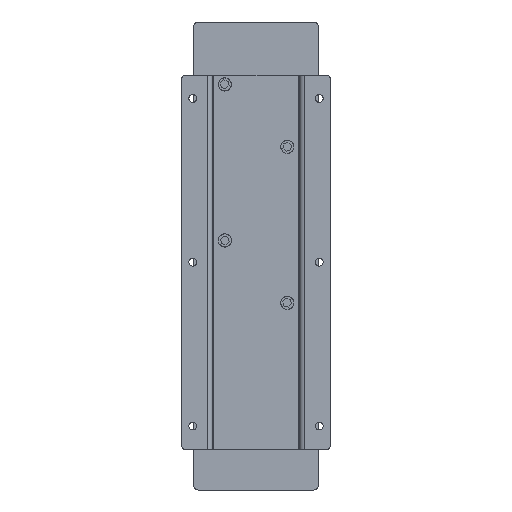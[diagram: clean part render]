
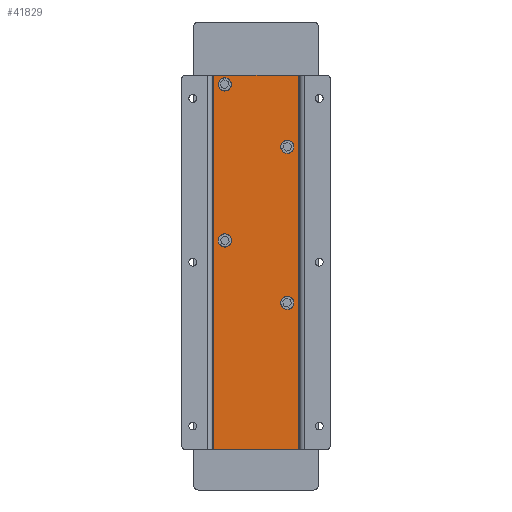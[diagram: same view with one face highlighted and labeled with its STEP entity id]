
A CAD part, left-side view. The second image highlights one B-rep face of the part: STEP entity #41829.
In plain terms, the highlighted planar face has unit normal (-1, 0, 0) as drawn and (0, 0, -1) by its records, which use the part's own axes.
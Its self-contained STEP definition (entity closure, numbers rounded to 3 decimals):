
#302 = CARTESIAN_POINT ( 'NONE',  ( -120., -27., -2. ) ) ;
#468 = FACE_BOUND ( 'NONE', #24551, .T. ) ;
#680 = FACE_BOUND ( 'NONE', #18764, .T. ) ;
#1101 = PLANE ( 'NONE',  #23171 ) ;
#1587 = ORIENTED_EDGE ( 'NONE', *, *, #27750, .F. ) ;
#1651 = CARTESIAN_POINT ( 'NONE',  ( -74., -20., -2. ) ) ;
#1652 = CARTESIAN_POINT ( 'NONE',  ( 120., 27., -2. ) ) ;
#1813 = DIRECTION ( 'NONE',  ( 1., 0., 0. ) ) ;
#2118 = CIRCLE ( 'NONE', #9692, 3.25 ) ;
#2319 = DIRECTION ( 'NONE',  ( 1., 0., 0. ) ) ;
#2619 = AXIS2_PLACEMENT_3D ( 'NONE', #25230, #24817, #34700 ) ;
#3047 = EDGE_CURVE ( 'NONE', #36448, #13564, #2118, .T. ) ;
#3077 = CARTESIAN_POINT ( 'NONE',  ( -114., 20., -2. ) ) ;
#3519 = CARTESIAN_POINT ( 'NONE',  ( -120., -27., -2. ) ) ;
#3689 = CARTESIAN_POINT ( 'NONE',  ( 120., -27., -2. ) ) ;
#3916 = CARTESIAN_POINT ( 'NONE',  ( 26., -20., -2. ) ) ;
#3964 = CARTESIAN_POINT ( 'NONE',  ( -77.25, -20., -2. ) ) ;
#4156 = VECTOR ( 'NONE', #13298, 1000. ) ;
#4841 = ORIENTED_EDGE ( 'NONE', *, *, #14754, .F. ) ;
#5091 = ORIENTED_EDGE ( 'NONE', *, *, #20849, .T. ) ;
#5194 = CARTESIAN_POINT ( 'NONE',  ( -114., 20., -2. ) ) ;
#5298 = CARTESIAN_POINT ( 'NONE',  ( -70.75, -20., -2. ) ) ;
#5838 = DIRECTION ( 'NONE',  ( 1., 0., 0. ) ) ;
#5983 = VERTEX_POINT ( 'NONE', #10798 ) ;
#6341 = CARTESIAN_POINT ( 'NONE',  ( 120., -27., -2. ) ) ;
#6542 = LINE ( 'NONE', #302, #40201 ) ;
#7160 = FACE_BOUND ( 'NONE', #29610, .T. ) ;
#7366 = DIRECTION ( 'NONE',  ( 0., 0., 1. ) ) ;
#7688 = DIRECTION ( 'NONE',  ( -1., 0., 0. ) ) ;
#7977 = EDGE_CURVE ( 'NONE', #38752, #18103, #38645, .T. ) ;
#8212 = EDGE_CURVE ( 'NONE', #11523, #40749, #37177, .T. ) ;
#9692 = AXIS2_PLACEMENT_3D ( 'NONE', #5194, #11655, #5838 ) ;
#9757 = DIRECTION ( 'NONE',  ( 1., 0., 0. ) ) ;
#10685 = DIRECTION ( 'NONE',  ( 0., 0., 1. ) ) ;
#10798 = CARTESIAN_POINT ( 'NONE',  ( -10.75, 20., -2. ) ) ;
#11161 = ORIENTED_EDGE ( 'NONE', *, *, #3047, .T. ) ;
#11466 = ORIENTED_EDGE ( 'NONE', *, *, #25427, .T. ) ;
#11523 = VERTEX_POINT ( 'NONE', #13209 ) ;
#11655 = DIRECTION ( 'NONE',  ( 0., 0., 1. ) ) ;
#11835 = CARTESIAN_POINT ( 'NONE',  ( -117.25, 20., -2. ) ) ;
#11963 = EDGE_LOOP ( 'NONE', ( #29800, #11466 ) ) ;
#12113 = AXIS2_PLACEMENT_3D ( 'NONE', #3077, #16215, #9757 ) ;
#13009 = DIRECTION ( 'NONE',  ( 0., 0., 1. ) ) ;
#13209 = CARTESIAN_POINT ( 'NONE',  ( 120., 27., -2. ) ) ;
#13298 = DIRECTION ( 'NONE',  ( 1., 0., 0. ) ) ;
#13399 = CARTESIAN_POINT ( 'NONE',  ( 0., 0., -2. ) ) ;
#13564 = VERTEX_POINT ( 'NONE', #11835 ) ;
#14737 = EDGE_CURVE ( 'NONE', #5983, #18153, #35411, .T. ) ;
#14754 = EDGE_CURVE ( 'NONE', #40749, #38752, #6542, .T. ) ;
#16215 = DIRECTION ( 'NONE',  ( 0., 0., 1. ) ) ;
#16645 = FACE_BOUND ( 'NONE', #11963, .T. ) ;
#16770 = CARTESIAN_POINT ( 'NONE',  ( 120., -27., -2. ) ) ;
#16859 = AXIS2_PLACEMENT_3D ( 'NONE', #42494, #13009, #22935 ) ;
#17686 = EDGE_CURVE ( 'NONE', #13564, #36448, #40991, .T. ) ;
#17705 = AXIS2_PLACEMENT_3D ( 'NONE', #3916, #37291, #34272 ) ;
#18103 = VERTEX_POINT ( 'NONE', #16770 ) ;
#18153 = VERTEX_POINT ( 'NONE', #23219 ) ;
#18186 = CARTESIAN_POINT ( 'NONE',  ( 26., -20., -2. ) ) ;
#18236 = ORIENTED_EDGE ( 'NONE', *, *, #17686, .T. ) ;
#18764 = EDGE_LOOP ( 'NONE', ( #35071, #23113 ) ) ;
#19137 = CIRCLE ( 'NONE', #2619, 3.25 ) ;
#19303 = EDGE_CURVE ( 'NONE', #18153, #5983, #19137, .T. ) ;
#19909 = ORIENTED_EDGE ( 'NONE', *, *, #8212, .F. ) ;
#20849 = EDGE_CURVE ( 'NONE', #36928, #21364, #39291, .T. ) ;
#21364 = VERTEX_POINT ( 'NONE', #3964 ) ;
#21929 = CARTESIAN_POINT ( 'NONE',  ( -110.75, 20., -2. ) ) ;
#22149 = VERTEX_POINT ( 'NONE', #24526 ) ;
#22267 = EDGE_CURVE ( 'NONE', #21364, #36928, #41423, .T. ) ;
#22935 = DIRECTION ( 'NONE',  ( 1., 0., 0. ) ) ;
#22989 = EDGE_CURVE ( 'NONE', #35517, #22149, #25266, .T. ) ;
#23113 = ORIENTED_EDGE ( 'NONE', *, *, #19303, .T. ) ;
#23171 = AXIS2_PLACEMENT_3D ( 'NONE', #13399, #7366, #23939 ) ;
#23219 = CARTESIAN_POINT ( 'NONE',  ( -17.25, 20., -2. ) ) ;
#23939 = DIRECTION ( 'NONE',  ( 1., 0., 0. ) ) ;
#24086 = VECTOR ( 'NONE', #7688, 1000. ) ;
#24126 = VECTOR ( 'NONE', #31762, 1000. ) ;
#24526 = CARTESIAN_POINT ( 'NONE',  ( 22.75, -20., -2. ) ) ;
#24551 = EDGE_LOOP ( 'NONE', ( #5091, #32650 ) ) ;
#24618 = CARTESIAN_POINT ( 'NONE',  ( 29.25, -20., -2. ) ) ;
#24682 = DIRECTION ( 'NONE',  ( 1., 0., 0. ) ) ;
#24739 = CARTESIAN_POINT ( 'NONE',  ( -74., -20., -2. ) ) ;
#24817 = DIRECTION ( 'NONE',  ( 0., 0., 1. ) ) ;
#25230 = CARTESIAN_POINT ( 'NONE',  ( -14., 20., -2. ) ) ;
#25266 = CIRCLE ( 'NONE', #17705, 3.25 ) ;
#25427 = EDGE_CURVE ( 'NONE', #22149, #35517, #36335, .T. ) ;
#25626 = AXIS2_PLACEMENT_3D ( 'NONE', #24739, #28169, #2319 ) ;
#27692 = EDGE_LOOP ( 'NONE', ( #4841, #19909, #1587, #40796 ) ) ;
#27750 = EDGE_CURVE ( 'NONE', #18103, #11523, #29161, .T. ) ;
#28169 = DIRECTION ( 'NONE',  ( 0., 0., 1. ) ) ;
#28966 = AXIS2_PLACEMENT_3D ( 'NONE', #1651, #10685, #24682 ) ;
#29161 = LINE ( 'NONE', #6341, #24126 ) ;
#29222 = CARTESIAN_POINT ( 'NONE',  ( -120., 27., -2. ) ) ;
#29610 = EDGE_LOOP ( 'NONE', ( #11161, #18236 ) ) ;
#29800 = ORIENTED_EDGE ( 'NONE', *, *, #22989, .T. ) ;
#29820 = DIRECTION ( 'NONE',  ( 0., -1., 0. ) ) ;
#31313 = DIRECTION ( 'NONE',  ( 0., 0., 1. ) ) ;
#31762 = DIRECTION ( 'NONE',  ( 0., 1., 0. ) ) ;
#32650 = ORIENTED_EDGE ( 'NONE', *, *, #22267, .T. ) ;
#34272 = DIRECTION ( 'NONE',  ( 1., 0., 0. ) ) ;
#34700 = DIRECTION ( 'NONE',  ( 1., 0., 0. ) ) ;
#35071 = ORIENTED_EDGE ( 'NONE', *, *, #14737, .T. ) ;
#35411 = CIRCLE ( 'NONE', #16859, 3.25 ) ;
#35517 = VERTEX_POINT ( 'NONE', #24618 ) ;
#36335 = CIRCLE ( 'NONE', #37033, 3.25 ) ;
#36448 = VERTEX_POINT ( 'NONE', #21929 ) ;
#36928 = VERTEX_POINT ( 'NONE', #5298 ) ;
#37033 = AXIS2_PLACEMENT_3D ( 'NONE', #18186, #31313, #1813 ) ;
#37177 = LINE ( 'NONE', #1652, #24086 ) ;
#37291 = DIRECTION ( 'NONE',  ( 0., 0., 1. ) ) ;
#38645 = LINE ( 'NONE', #3689, #4156 ) ;
#38752 = VERTEX_POINT ( 'NONE', #3519 ) ;
#39291 = CIRCLE ( 'NONE', #28966, 3.25 ) ;
#40085 = FACE_OUTER_BOUND ( 'NONE', #27692, .T. ) ;
#40201 = VECTOR ( 'NONE', #29820, 1000. ) ;
#40749 = VERTEX_POINT ( 'NONE', #29222 ) ;
#40796 = ORIENTED_EDGE ( 'NONE', *, *, #7977, .F. ) ;
#40991 = CIRCLE ( 'NONE', #12113, 3.25 ) ;
#41423 = CIRCLE ( 'NONE', #25626, 3.25 ) ;
#41829 = ADVANCED_FACE ( 'NONE', ( #7160, #468, #680, #16645, #40085 ), #1101, .F. ) ;
#42494 = CARTESIAN_POINT ( 'NONE',  ( -14., 20., -2. ) ) ;
